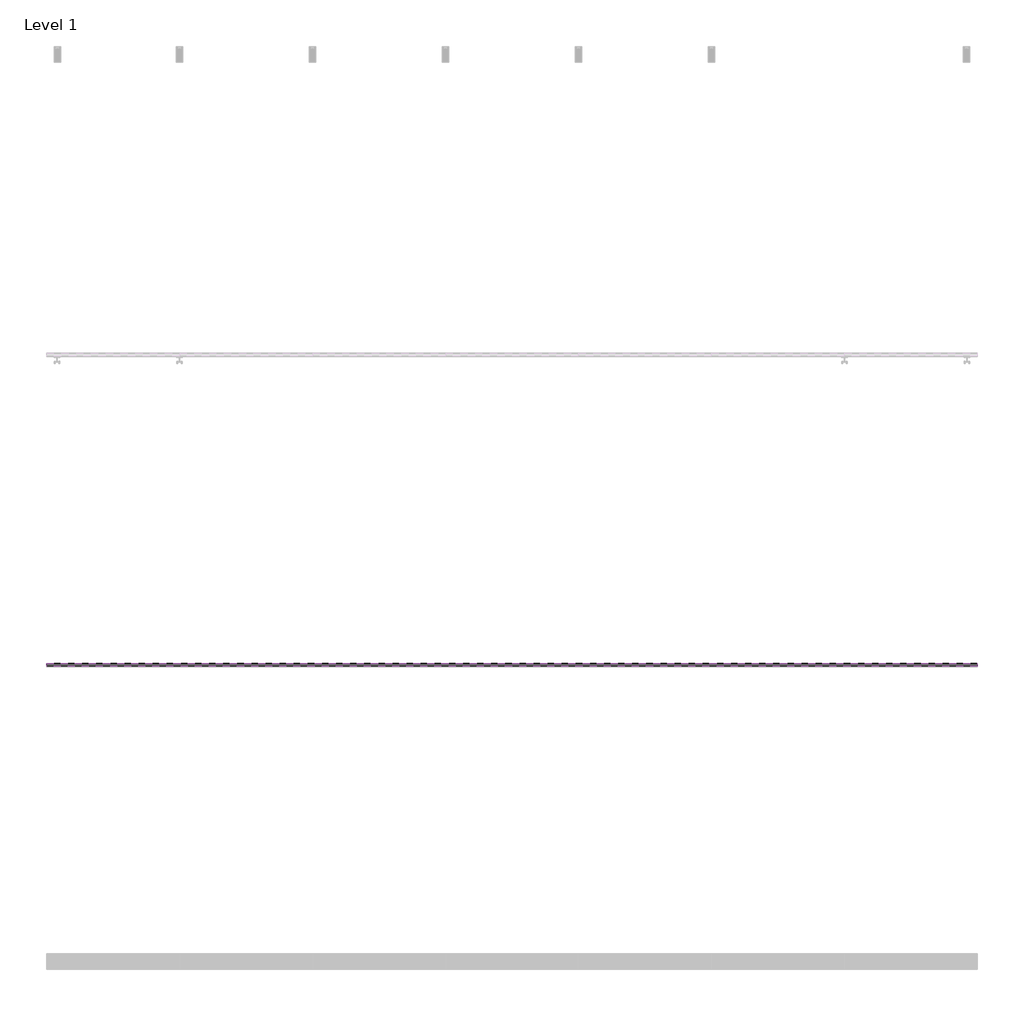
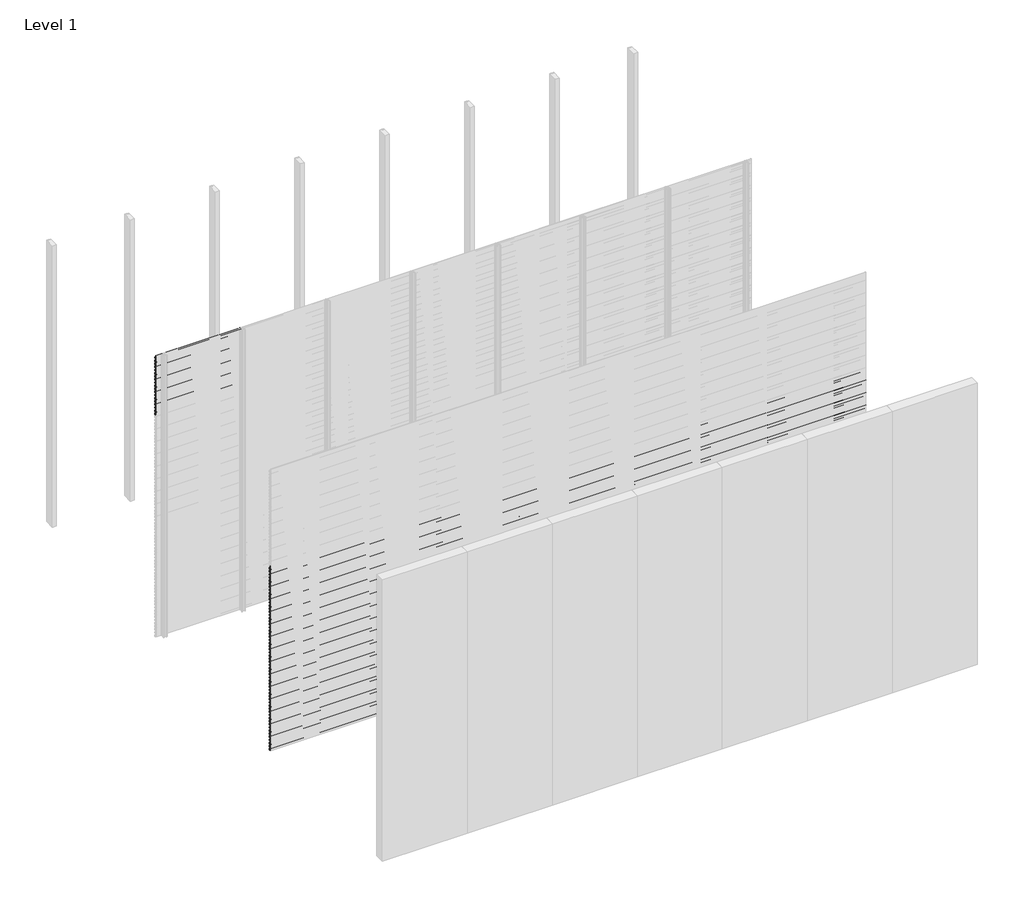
# One storey, part 23 of 96: 78 proxies.
"""IFC4 building model written with IfcOpenShell, lengths in millimetres."""

import ifcopenshell
import ifcopenshell.guid

model = None  # the IFC model being written
_history = None  # IfcOwnerHistory: only IFC2X3 demands one
_inside = {}  # id of a spatial element -> (the spatial element, [elements in it])
_under = {}  # id of a project, library or spatial element -> (it, [spatial elements below it])
_declared = {}  # id of a project -> (the project, [libraries it declares])
_typed = {}  # id of a type object -> (the type object, [elements of that type])
_made_of = {}  # id of a material, layer set ... -> (it, [elements and type objects made of it])


def new_model(schema):
    """Start an empty IFC model of exactly this schema.

    Asked for "IFC4X3", IfcOpenShell would pick the latest addendum, in which some entities
    have other attributes; the version numbers below select the first issue.
    IFC2X3 requires an IfcOwnerHistory on every rooted entity: one is made here for all.
    """
    global model, _history
    if schema == "IFC4X3":
        model = ifcopenshell.file(schema_version=(4, 3, 0, 0))
    else:
        model = ifcopenshell.file(schema=schema)
    _inside.clear()
    _under.clear()
    _declared.clear()
    _typed.clear()
    _made_of.clear()
    _history = None
    if model.schema == "IFC2X3":
        org = make("IfcOrganization", Name="unknown")
        user = make(
            "IfcPersonAndOrganization",
            ThePerson=make("IfcPerson", FamilyName="unknown"),
            TheOrganization=org,
        )
        app = make(
            "IfcApplication",
            ApplicationDeveloper=org,
            Version="unknown",
            ApplicationFullName="unknown",
            ApplicationIdentifier="unknown",
        )
        _history = make(
            "IfcOwnerHistory",
            OwningUser=user,
            OwningApplication=app,
            ChangeAction="ADDED",
            CreationDate=0,
        )
    return model


def make(cls, **values):
    """One entity of the class cls with the attributes given. An attribute that is None is left unset."""
    return model.create_entity(
        cls, **{name: value for name, value in values.items() if value is not None}
    )


def rooted(cls, **values):
    """An entity with a GlobalId (a new one), such as an element, a storey or a relation."""
    return make(cls, GlobalId=ifcopenshell.guid.new(), OwnerHistory=_history, **values)


def si_unit(unit_type, name, prefix=None):
    """IfcSIUnit, for example si_unit("LENGTHUNIT", "METRE", prefix="MILLI")."""
    return make("IfcSIUnit", UnitType=unit_type, Prefix=prefix, Name=name)


def assignment(units):
    """IfcUnitAssignment: the units of a project."""
    return None if units is None else make("IfcUnitAssignment", Units=units)


def point(xyz):
    """IfcCartesianPoint."""
    return None if xyz is None else make("IfcCartesianPoint", Coordinates=xyz)


def direction(xyz):
    """IfcDirection."""
    return None if xyz is None else make("IfcDirection", DirectionRatios=xyz)


def frame(location, z_axis=None, x_axis=None):
    """IfcAxis2Placement3D, a coordinate frame: its origin and axes. An axis left out is left unset."""
    return make(
        "IfcAxis2Placement3D",
        Location=point(location),
        Axis=direction(z_axis),
        RefDirection=direction(x_axis),
    )


def origin():
    """The frame at (0, 0, 0) with its axes left unset."""
    return frame((0.0, 0.0, 0.0))


def place(relative_to, where):
    """IfcLocalPlacement: puts the frame where relative to a parent placement (None: the world)."""
    return make(
        "IfcLocalPlacement", PlacementRelTo=relative_to, RelativePlacement=where
    )


def context(
    kind, dimensions, precision=None, world=None, true_north=None, identifier=None
):
    """IfcGeometricRepresentationContext, for example the 3D "Model" context."""
    return make(
        "IfcGeometricRepresentationContext",
        ContextIdentifier=identifier,
        ContextType=kind,
        CoordinateSpaceDimension=dimensions,
        Precision=precision,
        WorldCoordinateSystem=world,
        TrueNorth=true_north,
    )


def project(units=None, contexts=None):
    """IfcProject with its units and contexts."""
    return rooted(
        "IfcProject",
        Name="project",
        RepresentationContexts=contexts,
        UnitsInContext=assignment(units),
    )


def spatial(cls, under=None, at=None, **own):
    """A site, building, storey or space (cls), placed at a placement, below another one or the project."""
    s = rooted(cls, ObjectPlacement=at, **own)
    if under is not None:
        _under.setdefault(under.id(), (under, []))[1].append(s)
    return s


def polyline(points):
    """IfcPolyline through the points."""
    return make("IfcPolyline", Points=[point(p) for p in points])


def outline(outer, holes=None, kind="AREA"):
    """IfcArbitraryClosedProfileDef: a profile drawn as a closed curve; with holes, ...WithVoids."""
    if holes is None:
        return make("IfcArbitraryClosedProfileDef", ProfileType=kind, OuterCurve=outer)
    return make(
        "IfcArbitraryProfileDefWithVoids",
        ProfileType=kind,
        OuterCurve=outer,
        InnerCurves=holes,
    )


def extrude(swept, where, along, depth):
    """IfcExtrudedAreaSolid: the profile swept, set in the frame where, extruded along a direction by depth."""
    return make(
        "IfcExtrudedAreaSolid",
        SweptArea=swept,
        Position=where,
        ExtrudedDirection=direction(along),
        Depth=depth,
    )


def shape(context_of_items, identifier, shape_type, items):
    """IfcShapeRepresentation: the items that make up one representation, for example the "Body"."""
    return make(
        "IfcShapeRepresentation",
        ContextOfItems=context_of_items,
        RepresentationIdentifier=identifier,
        RepresentationType=shape_type,
        Items=items,
    )


def made_of(thing, what):
    """Note that an element or type object is made of a material, layer set ...; save() writes the relation."""
    if what is not None:
        _made_of.setdefault(what.id(), (what, []))[1].append(thing)
    return thing


def element(
    cls,
    number,
    at=None,
    inside=None,
    cuts=None,
    type_object=None,
    material=None,
    context=None,
    identifier="Body",
    shape_type=None,
    held_by="IfcProductDefinitionShape",
    body=None,
    shapes=None,
    **own,
):
    """One element of the class cls, such as IfcWall. Its Tag is "e" and its number.

    at: its placement. inside: the storey or other place that contains it. cuts: it is an
    opening in that element (IfcRelVoidsElement). A single representation is given by context,
    identifier, shape_type and body (its items); several are given by shapes. held_by: the class
    of the entity that holds the representations. save() writes the other relations.
    """
    e = rooted(cls, Tag="e%d" % number, ObjectPlacement=at, **own)
    if body is not None:
        shapes = [shape(context, identifier, shape_type, body)]
    if shapes is not None:
        e.Representation = make(held_by, Representations=shapes)
    if inside is not None:
        _inside.setdefault(inside.id(), (inside, []))[1].append(e)
    if cuts is not None:
        rooted(
            "IfcRelVoidsElement", RelatingBuildingElement=cuts, RelatedOpeningElement=e
        )
    if type_object is not None:
        _typed.setdefault(type_object.id(), (type_object, []))[1].append(e)
    return made_of(e, material)


def aggregate(whole, parts):
    """IfcRelAggregates: a whole, such as a stair, and the parts it consists of."""
    return rooted("IfcRelAggregates", RelatingObject=whole, RelatedObjects=parts)


def save(model, path):
    """Write the relations noted so far, then the file.

    IfcRelAggregates (storeys below a building ...), IfcRelContainedInSpatialStructure (elements
    in a storey), IfcRelDefinesByType, IfcRelAssociatesMaterial and IfcRelDeclares: one each for
    every whole, place, type object, material and project.
    """
    for whole, parts in _under.values():
        aggregate(whole, parts)
    for where, things in _inside.values():
        rooted(
            "IfcRelContainedInSpatialStructure",
            RelatedElements=things,
            RelatingStructure=where,
        )
    for kind, things in _typed.values():
        rooted("IfcRelDefinesByType", RelatedObjects=things, RelatingType=kind)
    for what, things in _made_of.values():
        rooted("IfcRelAssociatesMaterial", RelatedObjects=things, RelatingMaterial=what)
    for by, libraries in _declared.values():
        rooted("IfcRelDeclares", RelatingContext=by, RelatedDefinitions=libraries)
    model.write(path)


model = new_model("IFC4")

# Units and contexts
model_context = context("Model", 3, world=origin())
ifc_project = project(units=[si_unit("LENGTHUNIT", "METRE", prefix="MILLI")], contexts=[model_context])

# Site, building, storey
site = spatial("IfcSite", under=ifc_project)
building = spatial("IfcBuilding", under=site)
storey = spatial("IfcBuildingStorey", under=building, Name="Level 1", Elevation=0.0)

# Proxies
placement = place(None, origin())
element("IfcBuildingElementProxy", 1, Name="Wall Sweeps", at=placement, inside=storey, context=model_context, shape_type="SweptSolid", body=[
    extrude(outline(polyline([(-41977.6, 2971.7655033), (-41977.6, 2957.4779188), (-41982.4114965, 2954.7), (-41982.4114965, 2955.9701706), (-41978.85, 2958.0264016), (-41978.85, 2971.0437382), (-41998.0, 2982.1000799), (-41998.0, 2997.0), (-41996.75, 2997.0), (-41996.75, 2982.8217609), (-41977.6, 2971.7655033)])), frame((0.0, 0.0, 0.0), z_axis=(1.0, 0.0, 0.0), x_axis=(0.0, 1.0, 0.0)), (0.0, 0.0, 1.0), 857.1428571),
])
element("IfcBuildingElementProxy", 2, Name="Wall Sweeps", at=placement, inside=storey, context=model_context, shape_type="SweptSolid", body=[
    extrude(outline(polyline([(-41977.6, 2938.4655033), (-41977.6, 2924.1779188), (-41982.4114965, 2921.4), (-41982.4114965, 2922.6701706), (-41978.85, 2924.7264016), (-41978.85, 2937.7437382), (-41998.0, 2948.8000799), (-41998.0, 2963.7), (-41996.75, 2963.7), (-41996.75, 2949.5217609), (-41977.6, 2938.4655033)])), frame((0.0, 0.0, 0.0), z_axis=(1.0, 0.0, 0.0), x_axis=(0.0, 1.0, 0.0)), (0.0, 0.0, 1.0), 857.1428571),
])
element("IfcBuildingElementProxy", 3, Name="Wall Sweeps", at=placement, inside=storey, context=model_context, shape_type="SweptSolid", body=[
    extrude(outline(polyline([(-41977.6, 2905.1655033), (-41977.6, 2890.8779188), (-41982.4114965, 2888.1), (-41982.4114965, 2889.3701706), (-41978.85, 2891.4264016), (-41978.85, 2904.4437382), (-41998.0, 2915.5000799), (-41998.0, 2930.4), (-41996.75, 2930.4), (-41996.75, 2916.2217609), (-41977.6, 2905.1655033)])), frame((0.0, 0.0, 0.0), z_axis=(1.0, 0.0, 0.0), x_axis=(0.0, 1.0, 0.0)), (0.0, 0.0, 1.0), 857.1428571),
])
element("IfcBuildingElementProxy", 4, Name="Wall Sweeps", at=placement, inside=storey, context=model_context, shape_type="SweptSolid", body=[
    extrude(outline(polyline([(-41977.6, 2871.8655033), (-41977.6, 2857.5779188), (-41982.4114965, 2854.8), (-41982.4114965, 2856.0701706), (-41978.85, 2858.1264016), (-41978.85, 2871.1437382), (-41998.0, 2882.2000799), (-41998.0, 2897.1), (-41996.75, 2897.1), (-41996.75, 2882.9217609), (-41977.6, 2871.8655033)])), frame((0.0, 0.0, 0.0), z_axis=(1.0, 0.0, 0.0), x_axis=(0.0, 1.0, 0.0)), (0.0, 0.0, 1.0), 857.1428571),
])
element("IfcBuildingElementProxy", 5, Name="Wall Sweeps", at=placement, inside=storey, context=model_context, shape_type="SweptSolid", body=[
    extrude(outline(polyline([(-41977.6, 2838.5655033), (-41977.6, 2824.2779188), (-41982.4114965, 2821.5), (-41982.4114965, 2822.7701706), (-41978.85, 2824.8264016), (-41978.85, 2837.8437382), (-41998.0, 2848.9000799), (-41998.0, 2863.8), (-41996.75, 2863.8), (-41996.75, 2849.6217609), (-41977.6, 2838.5655033)])), frame((0.0, 0.0, 0.0), z_axis=(1.0, 0.0, 0.0), x_axis=(0.0, 1.0, 0.0)), (0.0, 0.0, 1.0), 857.1428571),
])
element("IfcBuildingElementProxy", 6, Name="Wall Sweeps", at=placement, inside=storey, context=model_context, shape_type="SweptSolid", body=[
    extrude(outline(polyline([(-41977.6, 2805.2655033), (-41977.6, 2790.9779188), (-41982.4114965, 2788.2), (-41982.4114965, 2789.4701706), (-41978.85, 2791.5264016), (-41978.85, 2804.5437382), (-41998.0, 2815.6000799), (-41998.0, 2830.5), (-41996.75, 2830.5), (-41996.75, 2816.3217609), (-41977.6, 2805.2655033)])), frame((0.0, 0.0, 0.0), z_axis=(1.0, 0.0, 0.0), x_axis=(0.0, 1.0, 0.0)), (0.0, 0.0, 1.0), 857.1428571),
])
element("IfcBuildingElementProxy", 7, Name="Wall Sweeps", at=placement, inside=storey, context=model_context, shape_type="SweptSolid", body=[
    extrude(outline(polyline([(-41977.6, 2771.9655033), (-41977.6, 2757.6779188), (-41982.4114965, 2754.9), (-41982.4114965, 2756.1701706), (-41978.85, 2758.2264016), (-41978.85, 2771.2437382), (-41998.0, 2782.3000799), (-41998.0, 2797.2), (-41996.75, 2797.2), (-41996.75, 2783.0217609), (-41977.6, 2771.9655033)])), frame((0.0, 0.0, 0.0), z_axis=(1.0, 0.0, 0.0), x_axis=(0.0, 1.0, 0.0)), (0.0, 0.0, 1.0), 857.1428571),
])
element("IfcBuildingElementProxy", 8, Name="Wall Sweeps", at=placement, inside=storey, context=model_context, shape_type="SweptSolid", body=[
    extrude(outline(polyline([(-41977.6, 2738.6655033), (-41977.6, 2724.3779188), (-41982.4114965, 2721.6), (-41982.4114965, 2722.8701706), (-41978.85, 2724.9264016), (-41978.85, 2737.9437382), (-41998.0, 2749.0000799), (-41998.0, 2763.9), (-41996.75, 2763.9), (-41996.75, 2749.7217609), (-41977.6, 2738.6655033)])), frame((0.0, 0.0, 0.0), z_axis=(1.0, 0.0, 0.0), x_axis=(0.0, 1.0, 0.0)), (0.0, 0.0, 1.0), 857.1428571),
])
element("IfcBuildingElementProxy", 9, Name="Wall Sweeps", at=placement, inside=storey, context=model_context, shape_type="SweptSolid", body=[
    extrude(outline(polyline([(-41977.6, 2705.3655033), (-41977.6, 2691.0779188), (-41982.4114965, 2688.3), (-41982.4114965, 2689.5701706), (-41978.85, 2691.6264016), (-41978.85, 2704.6437382), (-41998.0, 2715.7000799), (-41998.0, 2730.6), (-41996.75, 2730.6), (-41996.75, 2716.4217609), (-41977.6, 2705.3655033)])), frame((0.0, 0.0, 0.0), z_axis=(1.0, 0.0, 0.0), x_axis=(0.0, 1.0, 0.0)), (0.0, 0.0, 1.0), 857.1428571),
])
element("IfcBuildingElementProxy", 10, Name="Wall Sweeps", at=placement, inside=storey, context=model_context, shape_type="SweptSolid", body=[
    extrude(outline(polyline([(-41977.6, 2672.0655033), (-41977.6, 2657.7779188), (-41982.4114965, 2655.0), (-41982.4114965, 2656.2701706), (-41978.85, 2658.3264016), (-41978.85, 2671.3437382), (-41998.0, 2682.4000799), (-41998.0, 2697.3), (-41996.75, 2697.3), (-41996.75, 2683.1217609), (-41977.6, 2672.0655033)])), frame((0.0, 0.0, 0.0), z_axis=(1.0, 0.0, 0.0), x_axis=(0.0, 1.0, 0.0)), (0.0, 0.0, 1.0), 857.1428571),
])
element("IfcBuildingElementProxy", 11, Name="Wall Sweeps", at=placement, inside=storey, context=model_context, shape_type="SweptSolid", body=[
    extrude(outline(polyline([(-41977.6, 2638.7655033), (-41977.6, 2624.4779188), (-41982.4114965, 2621.7), (-41982.4114965, 2622.9701706), (-41978.85, 2625.0264016), (-41978.85, 2638.0437382), (-41998.0, 2649.1000799), (-41998.0, 2664.0), (-41996.75, 2664.0), (-41996.75, 2649.8217609), (-41977.6, 2638.7655033)])), frame((0.0, 0.0, 0.0), z_axis=(1.0, 0.0, 0.0), x_axis=(0.0, 1.0, 0.0)), (0.0, 0.0, 1.0), 857.1428571),
])
element("IfcBuildingElementProxy", 12, Name="Wall Sweeps", at=placement, inside=storey, context=model_context, shape_type="SweptSolid", body=[
    extrude(outline(polyline([(-41977.6, 2605.4655033), (-41977.6, 2591.1779188), (-41982.4114965, 2588.4), (-41982.4114965, 2589.6701706), (-41978.85, 2591.7264016), (-41978.85, 2604.7437382), (-41998.0, 2615.8000799), (-41998.0, 2630.7), (-41996.75, 2630.7), (-41996.75, 2616.5217609), (-41977.6, 2605.4655033)])), frame((0.0, 0.0, 0.0), z_axis=(1.0, 0.0, 0.0), x_axis=(0.0, 1.0, 0.0)), (0.0, 0.0, 1.0), 857.1428571),
])
element("IfcBuildingElementProxy", 13, Name="Wall Sweeps", at=placement, inside=storey, context=model_context, shape_type="SweptSolid", body=[
    extrude(outline(polyline([(-41977.6, 2572.1655033), (-41977.6, 2557.8779188), (-41982.4114965, 2555.1), (-41982.4114965, 2556.3701706), (-41978.85, 2558.4264016), (-41978.85, 2571.4437382), (-41998.0, 2582.5000799), (-41998.0, 2597.4), (-41996.75, 2597.4), (-41996.75, 2583.2217609), (-41977.6, 2572.1655033)])), frame((0.0, 0.0, 0.0), z_axis=(1.0, 0.0, 0.0), x_axis=(0.0, 1.0, 0.0)), (0.0, 0.0, 1.0), 857.1428571),
])
element("IfcBuildingElementProxy", 14, Name="Wall Sweeps", at=placement, inside=storey, context=model_context, shape_type="SweptSolid", body=[
    extrude(outline(polyline([(-41977.6, 2538.8655033), (-41977.6, 2524.5779188), (-41982.4114965, 2521.8), (-41982.4114965, 2523.0701706), (-41978.85, 2525.1264016), (-41978.85, 2538.1437382), (-41998.0, 2549.2000799), (-41998.0, 2564.1), (-41996.75, 2564.1), (-41996.75, 2549.9217609), (-41977.6, 2538.8655033)])), frame((0.0, 0.0, 0.0), z_axis=(1.0, 0.0, 0.0), x_axis=(0.0, 1.0, 0.0)), (0.0, 0.0, 1.0), 857.1428571),
])
element("IfcBuildingElementProxy", 15, Name="Wall Sweeps", at=placement, inside=storey, context=model_context, shape_type="SweptSolid", body=[
    extrude(outline(polyline([(-41977.6, 2505.5655033), (-41977.6, 2491.2779188), (-41982.4114965, 2488.5), (-41982.4114965, 2489.7701706), (-41978.85, 2491.8264016), (-41978.85, 2504.8437382), (-41998.0, 2515.9000799), (-41998.0, 2530.8), (-41996.75, 2530.8), (-41996.75, 2516.6217609), (-41977.6, 2505.5655033)])), frame((0.0, 0.0, 0.0), z_axis=(1.0, 0.0, 0.0), x_axis=(0.0, 1.0, 0.0)), (0.0, 0.0, 1.0), 857.1428571),
])
element("IfcBuildingElementProxy", 16, Name="Wall Sweeps", at=placement, inside=storey, context=model_context, shape_type="SweptSolid", body=[
    extrude(outline(polyline([(-41977.6, 2472.2655033), (-41977.6, 2457.9779188), (-41982.4114965, 2455.2), (-41982.4114965, 2456.4701706), (-41978.85, 2458.5264016), (-41978.85, 2471.5437382), (-41998.0, 2482.6000799), (-41998.0, 2497.5), (-41996.75, 2497.5), (-41996.75, 2483.3217609), (-41977.6, 2472.2655033)])), frame((0.0, 0.0, 0.0), z_axis=(1.0, 0.0, 0.0), x_axis=(0.0, 1.0, 0.0)), (0.0, 0.0, 1.0), 857.1428571),
])
element("IfcBuildingElementProxy", 17, Name="Wall Sweeps", at=placement, inside=storey, context=model_context, shape_type="SweptSolid", body=[
    extrude(outline(polyline([(-41977.6, 2438.9655033), (-41977.6, 2424.6779188), (-41982.4114965, 2421.9), (-41982.4114965, 2423.1701706), (-41978.85, 2425.2264016), (-41978.85, 2438.2437382), (-41998.0, 2449.3000799), (-41998.0, 2464.2), (-41996.75, 2464.2), (-41996.75, 2450.0217609), (-41977.6, 2438.9655033)])), frame((0.0, 0.0, 0.0), z_axis=(1.0, 0.0, 0.0), x_axis=(0.0, 1.0, 0.0)), (0.0, 0.0, 1.0), 857.1428571),
])
element("IfcBuildingElementProxy", 18, Name="Wall Sweeps", at=placement, inside=storey, context=model_context, shape_type="SweptSolid", body=[
    extrude(outline(polyline([(-41977.6, 2405.6655033), (-41977.6, 2391.3779188), (-41982.4114965, 2388.6), (-41982.4114965, 2389.8701706), (-41978.85, 2391.9264016), (-41978.85, 2404.9437382), (-41998.0, 2416.0000799), (-41998.0, 2430.9), (-41996.75, 2430.9), (-41996.75, 2416.7217609), (-41977.6, 2405.6655033)])), frame((0.0, 0.0, 0.0), z_axis=(1.0, 0.0, 0.0), x_axis=(0.0, 1.0, 0.0)), (0.0, 0.0, 1.0), 857.1428571),
])
element("IfcBuildingElementProxy", 19, Name="Wall Sweeps", at=placement, inside=storey, context=model_context, shape_type="SweptSolid", body=[
    extrude(outline(polyline([(-41977.6, 2372.3655033), (-41977.6, 2358.0779188), (-41982.4114965, 2355.3), (-41982.4114965, 2356.5701706), (-41978.85, 2358.6264016), (-41978.85, 2371.6437382), (-41998.0, 2382.7000799), (-41998.0, 2397.6), (-41996.75, 2397.6), (-41996.75, 2383.4217609), (-41977.6, 2372.3655033)])), frame((0.0, 0.0, 0.0), z_axis=(1.0, 0.0, 0.0), x_axis=(0.0, 1.0, 0.0)), (0.0, 0.0, 1.0), 857.1428571),
])
element("IfcBuildingElementProxy", 20, Name="Wall Sweeps", at=placement, inside=storey, context=model_context, shape_type="SweptSolid", body=[
    extrude(outline(polyline([(-43977.6, 1939.4655033), (-43977.6, 1925.1779188), (-43982.4114965, 1922.4), (-43982.4114965, 1923.6701706), (-43978.85, 1925.7264016), (-43978.85, 1938.7437382), (-43998.0, 1949.8000799), (-43998.0, 1964.7), (-43996.75, 1964.7), (-43996.75, 1950.5217609), (-43977.6, 1939.4655033)])), frame((0.0, 0.0, 0.0), z_axis=(1.0, 0.0, 0.0), x_axis=(0.0, 1.0, 0.0)), (0.0, 0.0, 1.0), 6000.0),
])
element("IfcBuildingElementProxy", 21, Name="Wall Sweeps", at=placement, inside=storey, context=model_context, shape_type="SweptSolid", body=[
    extrude(outline(polyline([(-43977.6, 1906.1655033), (-43977.6, 1891.8779188), (-43982.4114965, 1889.1), (-43982.4114965, 1890.3701706), (-43978.85, 1892.4264016), (-43978.85, 1905.4437382), (-43998.0, 1916.5000799), (-43998.0, 1931.4), (-43996.75, 1931.4), (-43996.75, 1917.2217609), (-43977.6, 1906.1655033)])), frame((0.0, 0.0, 0.0), z_axis=(1.0, 0.0, 0.0), x_axis=(0.0, 1.0, 0.0)), (0.0, 0.0, 1.0), 6000.0),
])
element("IfcBuildingElementProxy", 22, Name="Wall Sweeps", at=placement, inside=storey, context=model_context, shape_type="SweptSolid", body=[
    extrude(outline(polyline([(-43977.6, 1872.8655033), (-43977.6, 1858.5779188), (-43982.4114965, 1855.8), (-43982.4114965, 1857.0701706), (-43978.85, 1859.1264016), (-43978.85, 1872.1437382), (-43998.0, 1883.2000799), (-43998.0, 1898.1), (-43996.75, 1898.1), (-43996.75, 1883.9217609), (-43977.6, 1872.8655033)])), frame((0.0, 0.0, 0.0), z_axis=(1.0, 0.0, 0.0), x_axis=(0.0, 1.0, 0.0)), (0.0, 0.0, 1.0), 6000.0),
])
element("IfcBuildingElementProxy", 23, Name="Wall Sweeps", at=placement, inside=storey, context=model_context, shape_type="SweptSolid", body=[
    extrude(outline(polyline([(-43977.6, 1839.5655033), (-43977.6, 1825.2779188), (-43982.4114965, 1822.5), (-43982.4114965, 1823.7701706), (-43978.85, 1825.8264016), (-43978.85, 1838.8437382), (-43998.0, 1849.9000799), (-43998.0, 1864.8), (-43996.75, 1864.8), (-43996.75, 1850.6217609), (-43977.6, 1839.5655033)])), frame((0.0, 0.0, 0.0), z_axis=(1.0, 0.0, 0.0), x_axis=(0.0, 1.0, 0.0)), (0.0, 0.0, 1.0), 6000.0),
])
element("IfcBuildingElementProxy", 24, Name="Wall Sweeps", at=placement, inside=storey, context=model_context, shape_type="SweptSolid", body=[
    extrude(outline(polyline([(-43977.6, 1806.2655033), (-43977.6, 1791.9779188), (-43982.4114965, 1789.2), (-43982.4114965, 1790.4701706), (-43978.85, 1792.5264016), (-43978.85, 1805.5437382), (-43998.0, 1816.6000799), (-43998.0, 1831.5), (-43996.75, 1831.5), (-43996.75, 1817.3217609), (-43977.6, 1806.2655033)])), frame((0.0, 0.0, 0.0), z_axis=(1.0, 0.0, 0.0), x_axis=(0.0, 1.0, 0.0)), (0.0, 0.0, 1.0), 6000.0),
])
element("IfcBuildingElementProxy", 25, Name="Wall Sweeps", at=placement, inside=storey, context=model_context, shape_type="SweptSolid", body=[
    extrude(outline(polyline([(-43977.6, 1772.9655033), (-43977.6, 1758.6779188), (-43982.4114965, 1755.9), (-43982.4114965, 1757.1701706), (-43978.85, 1759.2264016), (-43978.85, 1772.2437382), (-43998.0, 1783.3000799), (-43998.0, 1798.2), (-43996.75, 1798.2), (-43996.75, 1784.0217609), (-43977.6, 1772.9655033)])), frame((0.0, 0.0, 0.0), z_axis=(1.0, 0.0, 0.0), x_axis=(0.0, 1.0, 0.0)), (0.0, 0.0, 1.0), 6000.0),
])
element("IfcBuildingElementProxy", 26, Name="Wall Sweeps", at=placement, inside=storey, context=model_context, shape_type="SweptSolid", body=[
    extrude(outline(polyline([(-43977.6, 1739.6655033), (-43977.6, 1725.3779188), (-43982.4114965, 1722.6), (-43982.4114965, 1723.8701706), (-43978.85, 1725.9264016), (-43978.85, 1738.9437382), (-43998.0, 1750.0000799), (-43998.0, 1764.9), (-43996.75, 1764.9), (-43996.75, 1750.7217609), (-43977.6, 1739.6655033)])), frame((0.0, 0.0, 0.0), z_axis=(1.0, 0.0, 0.0), x_axis=(0.0, 1.0, 0.0)), (0.0, 0.0, 1.0), 6000.0),
])
element("IfcBuildingElementProxy", 27, Name="Wall Sweeps", at=placement, inside=storey, context=model_context, shape_type="SweptSolid", body=[
    extrude(outline(polyline([(-43977.6, 1706.3655033), (-43977.6, 1692.0779188), (-43982.4114965, 1689.3), (-43982.4114965, 1690.5701706), (-43978.85, 1692.6264016), (-43978.85, 1705.6437382), (-43998.0, 1716.7000799), (-43998.0, 1731.6), (-43996.75, 1731.6), (-43996.75, 1717.4217609), (-43977.6, 1706.3655033)])), frame((0.0, 0.0, 0.0), z_axis=(1.0, 0.0, 0.0), x_axis=(0.0, 1.0, 0.0)), (0.0, 0.0, 1.0), 6000.0),
])
element("IfcBuildingElementProxy", 28, Name="Wall Sweeps", at=placement, inside=storey, context=model_context, shape_type="SweptSolid", body=[
    extrude(outline(polyline([(-43977.6, 1673.0655033), (-43977.6, 1658.7779188), (-43982.4114965, 1656.0), (-43982.4114965, 1657.2701706), (-43978.85, 1659.3264016), (-43978.85, 1672.3437382), (-43998.0, 1683.4000799), (-43998.0, 1698.3), (-43996.75, 1698.3), (-43996.75, 1684.1217609), (-43977.6, 1673.0655033)])), frame((0.0, 0.0, 0.0), z_axis=(1.0, 0.0, 0.0), x_axis=(0.0, 1.0, 0.0)), (0.0, 0.0, 1.0), 6000.0),
])
element("IfcBuildingElementProxy", 29, Name="Wall Sweeps", at=placement, inside=storey, context=model_context, shape_type="SweptSolid", body=[
    extrude(outline(polyline([(-43977.6, 1639.7655033), (-43977.6, 1625.4779188), (-43982.4114965, 1622.7), (-43982.4114965, 1623.9701706), (-43978.85, 1626.0264016), (-43978.85, 1639.0437382), (-43998.0, 1650.1000799), (-43998.0, 1665.0), (-43996.75, 1665.0), (-43996.75, 1650.8217609), (-43977.6, 1639.7655033)])), frame((0.0, 0.0, 0.0), z_axis=(1.0, 0.0, 0.0), x_axis=(0.0, 1.0, 0.0)), (0.0, 0.0, 1.0), 6000.0),
])
element("IfcBuildingElementProxy", 30, Name="Wall Sweeps", at=placement, inside=storey, context=model_context, shape_type="SweptSolid", body=[
    extrude(outline(polyline([(-43977.6, 1606.4655033), (-43977.6, 1592.1779188), (-43982.4114965, 1589.4), (-43982.4114965, 1590.6701706), (-43978.85, 1592.7264016), (-43978.85, 1605.7437382), (-43998.0, 1616.8000799), (-43998.0, 1631.7), (-43996.75, 1631.7), (-43996.75, 1617.5217609), (-43977.6, 1606.4655033)])), frame((0.0, 0.0, 0.0), z_axis=(1.0, 0.0, 0.0), x_axis=(0.0, 1.0, 0.0)), (0.0, 0.0, 1.0), 6000.0),
])
element("IfcBuildingElementProxy", 31, Name="Wall Sweeps", at=placement, inside=storey, context=model_context, shape_type="SweptSolid", body=[
    extrude(outline(polyline([(-43977.6, 1573.1655033), (-43977.6, 1558.8779188), (-43982.4114965, 1556.1), (-43982.4114965, 1557.3701706), (-43978.85, 1559.4264016), (-43978.85, 1572.4437382), (-43998.0, 1583.5000799), (-43998.0, 1598.4), (-43996.75, 1598.4), (-43996.75, 1584.2217609), (-43977.6, 1573.1655033)])), frame((0.0, 0.0, 0.0), z_axis=(1.0, 0.0, 0.0), x_axis=(0.0, 1.0, 0.0)), (0.0, 0.0, 1.0), 6000.0),
])
element("IfcBuildingElementProxy", 32, Name="Wall Sweeps", at=placement, inside=storey, context=model_context, shape_type="SweptSolid", body=[
    extrude(outline(polyline([(-43977.6, 1539.8655033), (-43977.6, 1525.5779188), (-43982.4114965, 1522.8), (-43982.4114965, 1524.0701706), (-43978.85, 1526.1264016), (-43978.85, 1539.1437382), (-43998.0, 1550.2000799), (-43998.0, 1565.1), (-43996.75, 1565.1), (-43996.75, 1550.9217609), (-43977.6, 1539.8655033)])), frame((0.0, 0.0, 0.0), z_axis=(1.0, 0.0, 0.0), x_axis=(0.0, 1.0, 0.0)), (0.0, 0.0, 1.0), 6000.0),
])
element("IfcBuildingElementProxy", 33, Name="Wall Sweeps", at=placement, inside=storey, context=model_context, shape_type="SweptSolid", body=[
    extrude(outline(polyline([(-43977.6, 1506.5655033), (-43977.6, 1492.2779188), (-43982.4114965, 1489.5), (-43982.4114965, 1490.7701706), (-43978.85, 1492.8264016), (-43978.85, 1505.8437382), (-43998.0, 1516.9000799), (-43998.0, 1531.8), (-43996.75, 1531.8), (-43996.75, 1517.6217609), (-43977.6, 1506.5655033)])), frame((0.0, 0.0, 0.0), z_axis=(1.0, 0.0, 0.0), x_axis=(0.0, 1.0, 0.0)), (0.0, 0.0, 1.0), 6000.0),
])
element("IfcBuildingElementProxy", 34, Name="Wall Sweeps", at=placement, inside=storey, context=model_context, shape_type="SweptSolid", body=[
    extrude(outline(polyline([(-43977.6, 1473.2655033), (-43977.6, 1458.9779188), (-43982.4114965, 1456.2), (-43982.4114965, 1457.4701706), (-43978.85, 1459.5264016), (-43978.85, 1472.5437382), (-43998.0, 1483.6000799), (-43998.0, 1498.5), (-43996.75, 1498.5), (-43996.75, 1484.3217609), (-43977.6, 1473.2655033)])), frame((0.0, 0.0, 0.0), z_axis=(1.0, 0.0, 0.0), x_axis=(0.0, 1.0, 0.0)), (0.0, 0.0, 1.0), 6000.0),
])
element("IfcBuildingElementProxy", 35, Name="Wall Sweeps", at=placement, inside=storey, context=model_context, shape_type="SweptSolid", body=[
    extrude(outline(polyline([(-43977.6, 1439.9655033), (-43977.6, 1425.6779188), (-43982.4114965, 1422.9), (-43982.4114965, 1424.1701706), (-43978.85, 1426.2264016), (-43978.85, 1439.2437382), (-43998.0, 1450.3000799), (-43998.0, 1465.2), (-43996.75, 1465.2), (-43996.75, 1451.0217609), (-43977.6, 1439.9655033)])), frame((0.0, 0.0, 0.0), z_axis=(1.0, 0.0, 0.0), x_axis=(0.0, 1.0, 0.0)), (0.0, 0.0, 1.0), 6000.0),
])
element("IfcBuildingElementProxy", 36, Name="Wall Sweeps", at=placement, inside=storey, context=model_context, shape_type="SweptSolid", body=[
    extrude(outline(polyline([(-43977.6, 1406.6655033), (-43977.6, 1392.3779188), (-43982.4114965, 1389.6), (-43982.4114965, 1390.8701706), (-43978.85, 1392.9264016), (-43978.85, 1405.9437382), (-43998.0, 1417.0000799), (-43998.0, 1431.9), (-43996.75, 1431.9), (-43996.75, 1417.7217609), (-43977.6, 1406.6655033)])), frame((0.0, 0.0, 0.0), z_axis=(1.0, 0.0, 0.0), x_axis=(0.0, 1.0, 0.0)), (0.0, 0.0, 1.0), 6000.0),
])
element("IfcBuildingElementProxy", 37, Name="Wall Sweeps", at=placement, inside=storey, context=model_context, shape_type="SweptSolid", body=[
    extrude(outline(polyline([(-43977.6, 1373.3655033), (-43977.6, 1359.0779188), (-43982.4114965, 1356.3), (-43982.4114965, 1357.5701706), (-43978.85, 1359.6264016), (-43978.85, 1372.6437382), (-43998.0, 1383.7000799), (-43998.0, 1398.6), (-43996.75, 1398.6), (-43996.75, 1384.4217609), (-43977.6, 1373.3655033)])), frame((0.0, 0.0, 0.0), z_axis=(1.0, 0.0, 0.0), x_axis=(0.0, 1.0, 0.0)), (0.0, 0.0, 1.0), 6000.0),
])
element("IfcBuildingElementProxy", 38, Name="Wall Sweeps", at=placement, inside=storey, context=model_context, shape_type="SweptSolid", body=[
    extrude(outline(polyline([(-43977.6, 1340.0655033), (-43977.6, 1325.7779188), (-43982.4114965, 1323.0), (-43982.4114965, 1324.2701706), (-43978.85, 1326.3264016), (-43978.85, 1339.3437382), (-43998.0, 1350.4000799), (-43998.0, 1365.3), (-43996.75, 1365.3), (-43996.75, 1351.1217609), (-43977.6, 1340.0655033)])), frame((0.0, 0.0, 0.0), z_axis=(1.0, 0.0, 0.0), x_axis=(0.0, 1.0, 0.0)), (0.0, 0.0, 1.0), 6000.0),
])
element("IfcBuildingElementProxy", 39, Name="Wall Sweeps", at=placement, inside=storey, context=model_context, shape_type="SweptSolid", body=[
    extrude(outline(polyline([(-43977.6, 1306.7655033), (-43977.6, 1292.4779188), (-43982.4114965, 1289.7), (-43982.4114965, 1290.9701706), (-43978.85, 1293.0264016), (-43978.85, 1306.0437382), (-43998.0, 1317.1000799), (-43998.0, 1332.0), (-43996.75, 1332.0), (-43996.75, 1317.8217609), (-43977.6, 1306.7655033)])), frame((0.0, 0.0, 0.0), z_axis=(1.0, 0.0, 0.0), x_axis=(0.0, 1.0, 0.0)), (0.0, 0.0, 1.0), 6000.0),
])
element("IfcBuildingElementProxy", 40, Name="Wall Sweeps", at=placement, inside=storey, context=model_context, shape_type="SweptSolid", body=[
    extrude(outline(polyline([(-43977.6, 1273.4655033), (-43977.6, 1259.1779188), (-43982.4114965, 1256.4), (-43982.4114965, 1257.6701706), (-43978.85, 1259.7264016), (-43978.85, 1272.7437382), (-43998.0, 1283.8000799), (-43998.0, 1298.7), (-43996.75, 1298.7), (-43996.75, 1284.5217609), (-43977.6, 1273.4655033)])), frame((0.0, 0.0, 0.0), z_axis=(1.0, 0.0, 0.0), x_axis=(0.0, 1.0, 0.0)), (0.0, 0.0, 1.0), 6000.0),
])
element("IfcBuildingElementProxy", 41, Name="Wall Sweeps", at=placement, inside=storey, context=model_context, shape_type="SweptSolid", body=[
    extrude(outline(polyline([(-43977.6, 1240.1655033), (-43977.6, 1225.8779188), (-43982.4114965, 1223.1), (-43982.4114965, 1224.3701706), (-43978.85, 1226.4264016), (-43978.85, 1239.4437382), (-43998.0, 1250.5000799), (-43998.0, 1265.4), (-43996.75, 1265.4), (-43996.75, 1251.2217609), (-43977.6, 1240.1655033)])), frame((0.0, 0.0, 0.0), z_axis=(1.0, 0.0, 0.0), x_axis=(0.0, 1.0, 0.0)), (0.0, 0.0, 1.0), 6000.0),
])
element("IfcBuildingElementProxy", 42, Name="Wall Sweeps", at=placement, inside=storey, context=model_context, shape_type="SweptSolid", body=[
    extrude(outline(polyline([(-43977.6, 1206.8655033), (-43977.6, 1192.5779188), (-43982.4114965, 1189.8), (-43982.4114965, 1191.0701706), (-43978.85, 1193.1264016), (-43978.85, 1206.1437382), (-43998.0, 1217.2000799), (-43998.0, 1232.1), (-43996.75, 1232.1), (-43996.75, 1217.9217609), (-43977.6, 1206.8655033)])), frame((0.0, 0.0, 0.0), z_axis=(1.0, 0.0, 0.0), x_axis=(0.0, 1.0, 0.0)), (0.0, 0.0, 1.0), 6000.0),
])
element("IfcBuildingElementProxy", 43, Name="Wall Sweeps", at=placement, inside=storey, context=model_context, shape_type="SweptSolid", body=[
    extrude(outline(polyline([(-43977.6, 1173.5655033), (-43977.6, 1159.2779188), (-43982.4114965, 1156.5), (-43982.4114965, 1157.7701706), (-43978.85, 1159.8264016), (-43978.85, 1172.8437382), (-43998.0, 1183.9000799), (-43998.0, 1198.8), (-43996.75, 1198.8), (-43996.75, 1184.6217609), (-43977.6, 1173.5655033)])), frame((0.0, 0.0, 0.0), z_axis=(1.0, 0.0, 0.0), x_axis=(0.0, 1.0, 0.0)), (0.0, 0.0, 1.0), 6000.0),
])
element("IfcBuildingElementProxy", 44, Name="Wall Sweeps", at=placement, inside=storey, context=model_context, shape_type="SweptSolid", body=[
    extrude(outline(polyline([(-43977.6, 1140.2655033), (-43977.6, 1125.9779188), (-43982.4114965, 1123.2), (-43982.4114965, 1124.4701706), (-43978.85, 1126.5264016), (-43978.85, 1139.5437382), (-43998.0, 1150.6000799), (-43998.0, 1165.5), (-43996.75, 1165.5), (-43996.75, 1151.3217609), (-43977.6, 1140.2655033)])), frame((0.0, 0.0, 0.0), z_axis=(1.0, 0.0, 0.0), x_axis=(0.0, 1.0, 0.0)), (0.0, 0.0, 1.0), 6000.0),
])
element("IfcBuildingElementProxy", 45, Name="Wall Sweeps", at=placement, inside=storey, context=model_context, shape_type="SweptSolid", body=[
    extrude(outline(polyline([(-43977.6, 1106.9655033), (-43977.6, 1092.6779188), (-43982.4114965, 1089.9), (-43982.4114965, 1091.1701706), (-43978.85, 1093.2264016), (-43978.85, 1106.2437382), (-43998.0, 1117.3000799), (-43998.0, 1132.2), (-43996.75, 1132.2), (-43996.75, 1118.0217609), (-43977.6, 1106.9655033)])), frame((0.0, 0.0, 0.0), z_axis=(1.0, 0.0, 0.0), x_axis=(0.0, 1.0, 0.0)), (0.0, 0.0, 1.0), 6000.0),
])
element("IfcBuildingElementProxy", 46, Name="Wall Sweeps", at=placement, inside=storey, context=model_context, shape_type="SweptSolid", body=[
    extrude(outline(polyline([(-43977.6, 1073.6655033), (-43977.6, 1059.3779188), (-43982.4114965, 1056.6), (-43982.4114965, 1057.8701706), (-43978.85, 1059.9264016), (-43978.85, 1072.9437382), (-43998.0, 1084.0000799), (-43998.0, 1098.9), (-43996.75, 1098.9), (-43996.75, 1084.7217609), (-43977.6, 1073.6655033)])), frame((0.0, 0.0, 0.0), z_axis=(1.0, 0.0, 0.0), x_axis=(0.0, 1.0, 0.0)), (0.0, 0.0, 1.0), 6000.0),
])
element("IfcBuildingElementProxy", 47, Name="Wall Sweeps", at=placement, inside=storey, context=model_context, shape_type="SweptSolid", body=[
    extrude(outline(polyline([(-43977.6, 1040.3655033), (-43977.6, 1026.0779188), (-43982.4114965, 1023.3), (-43982.4114965, 1024.5701706), (-43978.85, 1026.6264016), (-43978.85, 1039.6437382), (-43998.0, 1050.7000799), (-43998.0, 1065.6), (-43996.75, 1065.6), (-43996.75, 1051.4217609), (-43977.6, 1040.3655033)])), frame((0.0, 0.0, 0.0), z_axis=(1.0, 0.0, 0.0), x_axis=(0.0, 1.0, 0.0)), (0.0, 0.0, 1.0), 6000.0),
])
element("IfcBuildingElementProxy", 48, Name="Wall Sweeps", at=placement, inside=storey, context=model_context, shape_type="SweptSolid", body=[
    extrude(outline(polyline([(-43977.6, 1007.0655033), (-43977.6, 992.7779188), (-43982.4114965, 990.0), (-43982.4114965, 991.2701706), (-43978.85, 993.3264016), (-43978.85, 1006.3437382), (-43998.0, 1017.4000799), (-43998.0, 1032.3), (-43996.75, 1032.3), (-43996.75, 1018.1217609), (-43977.6, 1007.0655033)])), frame((0.0, 0.0, 0.0), z_axis=(1.0, 0.0, 0.0), x_axis=(0.0, 1.0, 0.0)), (0.0, 0.0, 1.0), 6000.0),
])
element("IfcBuildingElementProxy", 49, Name="Wall Sweeps", at=placement, inside=storey, context=model_context, shape_type="SweptSolid", body=[
    extrude(outline(polyline([(-43977.6, 973.7655033), (-43977.6, 959.4779188), (-43982.4114965, 956.7), (-43982.4114965, 957.9701706), (-43978.85, 960.0264016), (-43978.85, 973.0437382), (-43998.0, 984.1000799), (-43998.0, 999.0), (-43996.75, 999.0), (-43996.75, 984.8217609), (-43977.6, 973.7655033)])), frame((0.0, 0.0, 0.0), z_axis=(1.0, 0.0, 0.0), x_axis=(0.0, 1.0, 0.0)), (0.0, 0.0, 1.0), 6000.0),
])
element("IfcBuildingElementProxy", 50, Name="Wall Sweeps", at=placement, inside=storey, context=model_context, shape_type="SweptSolid", body=[
    extrude(outline(polyline([(-43977.6, 940.4655033), (-43977.6, 926.1779188), (-43982.4114965, 923.4), (-43982.4114965, 924.6701706), (-43978.85, 926.7264016), (-43978.85, 939.7437382), (-43998.0, 950.8000799), (-43998.0, 965.7), (-43996.75, 965.7), (-43996.75, 951.5217609), (-43977.6, 940.4655033)])), frame((0.0, 0.0, 0.0), z_axis=(1.0, 0.0, 0.0), x_axis=(0.0, 1.0, 0.0)), (0.0, 0.0, 1.0), 6000.0),
])
element("IfcBuildingElementProxy", 51, Name="Wall Sweeps", at=placement, inside=storey, context=model_context, shape_type="SweptSolid", body=[
    extrude(outline(polyline([(-43977.6, 907.1655033), (-43977.6, 892.8779188), (-43982.4114965, 890.1), (-43982.4114965, 891.3701706), (-43978.85, 893.4264016), (-43978.85, 906.4437382), (-43998.0, 917.5000799), (-43998.0, 932.4), (-43996.75, 932.4), (-43996.75, 918.2217609), (-43977.6, 907.1655033)])), frame((0.0, 0.0, 0.0), z_axis=(1.0, 0.0, 0.0), x_axis=(0.0, 1.0, 0.0)), (0.0, 0.0, 1.0), 6000.0),
])
element("IfcBuildingElementProxy", 52, Name="Wall Sweeps", at=placement, inside=storey, context=model_context, shape_type="SweptSolid", body=[
    extrude(outline(polyline([(-43977.6, 873.8655033), (-43977.6, 859.5779188), (-43982.4114965, 856.8), (-43982.4114965, 858.0701706), (-43978.85, 860.1264016), (-43978.85, 873.1437382), (-43998.0, 884.2000799), (-43998.0, 899.1), (-43996.75, 899.1), (-43996.75, 884.9217609), (-43977.6, 873.8655033)])), frame((0.0, 0.0, 0.0), z_axis=(1.0, 0.0, 0.0), x_axis=(0.0, 1.0, 0.0)), (0.0, 0.0, 1.0), 6000.0),
])
element("IfcBuildingElementProxy", 53, Name="Wall Sweeps", at=placement, inside=storey, context=model_context, shape_type="SweptSolid", body=[
    extrude(outline(polyline([(-43977.6, 840.5655033), (-43977.6, 826.2779188), (-43982.4114965, 823.5), (-43982.4114965, 824.7701706), (-43978.85, 826.8264016), (-43978.85, 839.8437382), (-43998.0, 850.9000799), (-43998.0, 865.8), (-43996.75, 865.8), (-43996.75, 851.6217609), (-43977.6, 840.5655033)])), frame((0.0, 0.0, 0.0), z_axis=(1.0, 0.0, 0.0), x_axis=(0.0, 1.0, 0.0)), (0.0, 0.0, 1.0), 6000.0),
])
element("IfcBuildingElementProxy", 54, Name="Wall Sweeps", at=placement, inside=storey, context=model_context, shape_type="SweptSolid", body=[
    extrude(outline(polyline([(-43977.6, 807.2655033), (-43977.6, 792.9779188), (-43982.4114965, 790.2), (-43982.4114965, 791.4701706), (-43978.85, 793.5264016), (-43978.85, 806.5437382), (-43998.0, 817.6000799), (-43998.0, 832.5), (-43996.75, 832.5), (-43996.75, 818.3217609), (-43977.6, 807.2655033)])), frame((0.0, 0.0, 0.0), z_axis=(1.0, 0.0, 0.0), x_axis=(0.0, 1.0, 0.0)), (0.0, 0.0, 1.0), 6000.0),
])
element("IfcBuildingElementProxy", 55, Name="Wall Sweeps", at=placement, inside=storey, context=model_context, shape_type="SweptSolid", body=[
    extrude(outline(polyline([(-43977.6, 773.9655033), (-43977.6, 759.6779188), (-43982.4114965, 756.9), (-43982.4114965, 758.1701706), (-43978.85, 760.2264016), (-43978.85, 773.2437382), (-43998.0, 784.3000799), (-43998.0, 799.2), (-43996.75, 799.2), (-43996.75, 785.0217609), (-43977.6, 773.9655033)])), frame((0.0, 0.0, 0.0), z_axis=(1.0, 0.0, 0.0), x_axis=(0.0, 1.0, 0.0)), (0.0, 0.0, 1.0), 6000.0),
])
element("IfcBuildingElementProxy", 56, Name="Wall Sweeps", at=placement, inside=storey, context=model_context, shape_type="SweptSolid", body=[
    extrude(outline(polyline([(-43977.6, 740.6655033), (-43977.6, 726.3779188), (-43982.4114965, 723.6), (-43982.4114965, 724.8701706), (-43978.85, 726.9264016), (-43978.85, 739.9437382), (-43998.0, 751.0000799), (-43998.0, 765.9), (-43996.75, 765.9), (-43996.75, 751.7217609), (-43977.6, 740.6655033)])), frame((0.0, 0.0, 0.0), z_axis=(1.0, 0.0, 0.0), x_axis=(0.0, 1.0, 0.0)), (0.0, 0.0, 1.0), 6000.0),
])
element("IfcBuildingElementProxy", 57, Name="Wall Sweeps", at=placement, inside=storey, context=model_context, shape_type="SweptSolid", body=[
    extrude(outline(polyline([(-43977.6, 707.3655033), (-43977.6, 693.0779188), (-43982.4114965, 690.3), (-43982.4114965, 691.5701706), (-43978.85, 693.6264016), (-43978.85, 706.6437382), (-43998.0, 717.7000799), (-43998.0, 732.6), (-43996.75, 732.6), (-43996.75, 718.4217609), (-43977.6, 707.3655033)])), frame((0.0, 0.0, 0.0), z_axis=(1.0, 0.0, 0.0), x_axis=(0.0, 1.0, 0.0)), (0.0, 0.0, 1.0), 6000.0),
])
element("IfcBuildingElementProxy", 58, Name="Wall Sweeps", at=placement, inside=storey, context=model_context, shape_type="SweptSolid", body=[
    extrude(outline(polyline([(-43977.6, 674.0655033), (-43977.6, 659.7779188), (-43982.4114965, 657.0), (-43982.4114965, 658.2701706), (-43978.85, 660.3264016), (-43978.85, 673.3437382), (-43998.0, 684.4000799), (-43998.0, 699.3), (-43996.75, 699.3), (-43996.75, 685.1217609), (-43977.6, 674.0655033)])), frame((0.0, 0.0, 0.0), z_axis=(1.0, 0.0, 0.0), x_axis=(0.0, 1.0, 0.0)), (0.0, 0.0, 1.0), 6000.0),
])
element("IfcBuildingElementProxy", 59, Name="Wall Sweeps", at=placement, inside=storey, context=model_context, shape_type="SweptSolid", body=[
    extrude(outline(polyline([(-43977.6, 640.7655033), (-43977.6, 626.4779188), (-43982.4114965, 623.7), (-43982.4114965, 624.9701706), (-43978.85, 627.0264016), (-43978.85, 640.0437382), (-43998.0, 651.1000799), (-43998.0, 666.0), (-43996.75, 666.0), (-43996.75, 651.8217609), (-43977.6, 640.7655033)])), frame((0.0, 0.0, 0.0), z_axis=(1.0, 0.0, 0.0), x_axis=(0.0, 1.0, 0.0)), (0.0, 0.0, 1.0), 6000.0),
])
element("IfcBuildingElementProxy", 60, Name="Wall Sweeps", at=placement, inside=storey, context=model_context, shape_type="SweptSolid", body=[
    extrude(outline(polyline([(-43977.6, 607.4655033), (-43977.6, 593.1779188), (-43982.4114965, 590.4), (-43982.4114965, 591.6701706), (-43978.85, 593.7264016), (-43978.85, 606.7437382), (-43998.0, 617.8000799), (-43998.0, 632.7), (-43996.75, 632.7), (-43996.75, 618.5217609), (-43977.6, 607.4655033)])), frame((0.0, 0.0, 0.0), z_axis=(1.0, 0.0, 0.0), x_axis=(0.0, 1.0, 0.0)), (0.0, 0.0, 1.0), 6000.0),
])
element("IfcBuildingElementProxy", 61, Name="Wall Sweeps", at=placement, inside=storey, context=model_context, shape_type="SweptSolid", body=[
    extrude(outline(polyline([(-43977.6, 574.1655033), (-43977.6, 559.8779188), (-43982.4114965, 557.1), (-43982.4114965, 558.3701706), (-43978.85, 560.4264016), (-43978.85, 573.4437382), (-43998.0, 584.5000799), (-43998.0, 599.4), (-43996.75, 599.4), (-43996.75, 585.2217609), (-43977.6, 574.1655033)])), frame((0.0, 0.0, 0.0), z_axis=(1.0, 0.0, 0.0), x_axis=(0.0, 1.0, 0.0)), (0.0, 0.0, 1.0), 6000.0),
])
element("IfcBuildingElementProxy", 62, Name="Wall Sweeps", at=placement, inside=storey, context=model_context, shape_type="SweptSolid", body=[
    extrude(outline(polyline([(-43977.6, 540.8655033), (-43977.6, 526.5779188), (-43982.4114965, 523.8), (-43982.4114965, 525.0701706), (-43978.85, 527.1264016), (-43978.85, 540.1437382), (-43998.0, 551.2000799), (-43998.0, 566.1), (-43996.75, 566.1), (-43996.75, 551.9217609), (-43977.6, 540.8655033)])), frame((0.0, 0.0, 0.0), z_axis=(1.0, 0.0, 0.0), x_axis=(0.0, 1.0, 0.0)), (0.0, 0.0, 1.0), 6000.0),
])
element("IfcBuildingElementProxy", 63, Name="Wall Sweeps", at=placement, inside=storey, context=model_context, shape_type="SweptSolid", body=[
    extrude(outline(polyline([(-43977.6, 507.5655033), (-43977.6, 493.2779188), (-43982.4114965, 490.5), (-43982.4114965, 491.7701706), (-43978.85, 493.8264016), (-43978.85, 506.8437382), (-43998.0, 517.9000799), (-43998.0, 532.8), (-43996.75, 532.8), (-43996.75, 518.6217609), (-43977.6, 507.5655033)])), frame((0.0, 0.0, 0.0), z_axis=(1.0, 0.0, 0.0), x_axis=(0.0, 1.0, 0.0)), (0.0, 0.0, 1.0), 6000.0),
])
element("IfcBuildingElementProxy", 64, Name="Wall Sweeps", at=placement, inside=storey, context=model_context, shape_type="SweptSolid", body=[
    extrude(outline(polyline([(-43977.6, 474.2655033), (-43977.6, 459.9779188), (-43982.4114965, 457.2), (-43982.4114965, 458.4701706), (-43978.85, 460.5264016), (-43978.85, 473.5437382), (-43998.0, 484.6000799), (-43998.0, 499.5), (-43996.75, 499.5), (-43996.75, 485.3217609), (-43977.6, 474.2655033)])), frame((0.0, 0.0, 0.0), z_axis=(1.0, 0.0, 0.0), x_axis=(0.0, 1.0, 0.0)), (0.0, 0.0, 1.0), 6000.0),
])
element("IfcBuildingElementProxy", 65, Name="Wall Sweeps", at=placement, inside=storey, context=model_context, shape_type="SweptSolid", body=[
    extrude(outline(polyline([(-43977.6, 440.9655033), (-43977.6, 426.6779188), (-43982.4114965, 423.9), (-43982.4114965, 425.1701706), (-43978.85, 427.2264016), (-43978.85, 440.2437382), (-43998.0, 451.3000799), (-43998.0, 466.2), (-43996.75, 466.2), (-43996.75, 452.0217609), (-43977.6, 440.9655033)])), frame((0.0, 0.0, 0.0), z_axis=(1.0, 0.0, 0.0), x_axis=(0.0, 1.0, 0.0)), (0.0, 0.0, 1.0), 6000.0),
])
element("IfcBuildingElementProxy", 66, Name="Wall Sweeps", at=placement, inside=storey, context=model_context, shape_type="SweptSolid", body=[
    extrude(outline(polyline([(-43977.6, 407.6655033), (-43977.6, 393.3779188), (-43982.4114965, 390.6), (-43982.4114965, 391.8701706), (-43978.85, 393.9264016), (-43978.85, 406.9437382), (-43998.0, 418.0000799), (-43998.0, 432.9), (-43996.75, 432.9), (-43996.75, 418.7217609), (-43977.6, 407.6655033)])), frame((0.0, 0.0, 0.0), z_axis=(1.0, 0.0, 0.0), x_axis=(0.0, 1.0, 0.0)), (0.0, 0.0, 1.0), 6000.0),
])
element("IfcBuildingElementProxy", 67, Name="Wall Sweeps", at=placement, inside=storey, context=model_context, shape_type="SweptSolid", body=[
    extrude(outline(polyline([(-43977.6, 374.3655033), (-43977.6, 360.0779188), (-43982.4114965, 357.3), (-43982.4114965, 358.5701706), (-43978.85, 360.6264016), (-43978.85, 373.6437382), (-43998.0, 384.7000799), (-43998.0, 399.6), (-43996.75, 399.6), (-43996.75, 385.4217609), (-43977.6, 374.3655033)])), frame((0.0, 0.0, 0.0), z_axis=(1.0, 0.0, 0.0), x_axis=(0.0, 1.0, 0.0)), (0.0, 0.0, 1.0), 6000.0),
])
element("IfcBuildingElementProxy", 68, Name="Wall Sweeps", at=placement, inside=storey, context=model_context, shape_type="SweptSolid", body=[
    extrude(outline(polyline([(-43977.6, 341.0655033), (-43977.6, 326.7779188), (-43982.4114965, 324.0), (-43982.4114965, 325.2701706), (-43978.85, 327.3264016), (-43978.85, 340.3437382), (-43998.0, 351.4000799), (-43998.0, 366.3), (-43996.75, 366.3), (-43996.75, 352.1217609), (-43977.6, 341.0655033)])), frame((0.0, 0.0, 0.0), z_axis=(1.0, 0.0, 0.0), x_axis=(0.0, 1.0, 0.0)), (0.0, 0.0, 1.0), 6000.0),
])
element("IfcBuildingElementProxy", 69, Name="Wall Sweeps", at=placement, inside=storey, context=model_context, shape_type="SweptSolid", body=[
    extrude(outline(polyline([(-43977.6, 307.7655033), (-43977.6, 293.4779188), (-43982.4114965, 290.7), (-43982.4114965, 291.9701706), (-43978.85, 294.0264016), (-43978.85, 307.0437382), (-43998.0, 318.1000799), (-43998.0, 333.0), (-43996.75, 333.0), (-43996.75, 318.8217609), (-43977.6, 307.7655033)])), frame((0.0, 0.0, 0.0), z_axis=(1.0, 0.0, 0.0), x_axis=(0.0, 1.0, 0.0)), (0.0, 0.0, 1.0), 6000.0),
])
element("IfcBuildingElementProxy", 70, Name="Wall Sweeps", at=placement, inside=storey, context=model_context, shape_type="SweptSolid", body=[
    extrude(outline(polyline([(-43977.6, 274.4655033), (-43977.6, 260.1779188), (-43982.4114965, 257.4), (-43982.4114965, 258.6701706), (-43978.85, 260.7264016), (-43978.85, 273.7437382), (-43998.0, 284.8000799), (-43998.0, 299.7), (-43996.75, 299.7), (-43996.75, 285.5217609), (-43977.6, 274.4655033)])), frame((0.0, 0.0, 0.0), z_axis=(1.0, 0.0, 0.0), x_axis=(0.0, 1.0, 0.0)), (0.0, 0.0, 1.0), 6000.0),
])
element("IfcBuildingElementProxy", 71, Name="Wall Sweeps", at=placement, inside=storey, context=model_context, shape_type="SweptSolid", body=[
    extrude(outline(polyline([(-43977.6, 241.1655033), (-43977.6, 226.8779188), (-43982.4114965, 224.1), (-43982.4114965, 225.3701706), (-43978.85, 227.4264016), (-43978.85, 240.4437382), (-43998.0, 251.5000799), (-43998.0, 266.4), (-43996.75, 266.4), (-43996.75, 252.2217609), (-43977.6, 241.1655033)])), frame((0.0, 0.0, 0.0), z_axis=(1.0, 0.0, 0.0), x_axis=(0.0, 1.0, 0.0)), (0.0, 0.0, 1.0), 6000.0),
])
element("IfcBuildingElementProxy", 72, Name="Wall Sweeps", at=placement, inside=storey, context=model_context, shape_type="SweptSolid", body=[
    extrude(outline(polyline([(-43977.6, 207.8655033), (-43977.6, 193.5779188), (-43982.4114965, 190.8), (-43982.4114965, 192.0701706), (-43978.85, 194.1264016), (-43978.85, 207.1437382), (-43998.0, 218.2000799), (-43998.0, 233.1), (-43996.75, 233.1), (-43996.75, 218.9217609), (-43977.6, 207.8655033)])), frame((0.0, 0.0, 0.0), z_axis=(1.0, 0.0, 0.0), x_axis=(0.0, 1.0, 0.0)), (0.0, 0.0, 1.0), 6000.0),
])
element("IfcBuildingElementProxy", 73, Name="Wall Sweeps", at=placement, inside=storey, context=model_context, shape_type="SweptSolid", body=[
    extrude(outline(polyline([(-43977.6, 174.5655033), (-43977.6, 160.2779188), (-43982.4114965, 157.5), (-43982.4114965, 158.7701706), (-43978.85, 160.8264016), (-43978.85, 173.8437382), (-43998.0, 184.9000799), (-43998.0, 199.8), (-43996.75, 199.8), (-43996.75, 185.6217609), (-43977.6, 174.5655033)])), frame((0.0, 0.0, 0.0), z_axis=(1.0, 0.0, 0.0), x_axis=(0.0, 1.0, 0.0)), (0.0, 0.0, 1.0), 6000.0),
])
element("IfcBuildingElementProxy", 74, Name="Wall Sweeps", at=placement, inside=storey, context=model_context, shape_type="SweptSolid", body=[
    extrude(outline(polyline([(-43977.6, 141.2655033), (-43977.6, 126.9779188), (-43982.4114965, 124.2), (-43982.4114965, 125.4701706), (-43978.85, 127.5264016), (-43978.85, 140.5437382), (-43998.0, 151.6000799), (-43998.0, 166.5), (-43996.75, 166.5), (-43996.75, 152.3217609), (-43977.6, 141.2655033)])), frame((0.0, 0.0, 0.0), z_axis=(1.0, 0.0, 0.0), x_axis=(0.0, 1.0, 0.0)), (0.0, 0.0, 1.0), 6000.0),
])
element("IfcBuildingElementProxy", 75, Name="Wall Sweeps", at=placement, inside=storey, context=model_context, shape_type="SweptSolid", body=[
    extrude(outline(polyline([(-43977.6, 107.9655033), (-43977.6, 93.6779188), (-43982.4114965, 90.9), (-43982.4114965, 92.1701706), (-43978.85, 94.2264016), (-43978.85, 107.2437382), (-43998.0, 118.3000799), (-43998.0, 133.2), (-43996.75, 133.2), (-43996.75, 119.0217609), (-43977.6, 107.9655033)])), frame((0.0, 0.0, 0.0), z_axis=(1.0, 0.0, 0.0), x_axis=(0.0, 1.0, 0.0)), (0.0, 0.0, 1.0), 6000.0),
])
element("IfcBuildingElementProxy", 76, Name="Wall Sweeps", at=placement, inside=storey, context=model_context, shape_type="SweptSolid", body=[
    extrude(outline(polyline([(-43977.6, 74.6655033), (-43977.6, 60.3779188), (-43982.4114965, 57.6), (-43982.4114965, 58.8701706), (-43978.85, 60.9264016), (-43978.85, 73.9437382), (-43998.0, 85.0000799), (-43998.0, 99.9), (-43996.75, 99.9), (-43996.75, 85.7217609), (-43977.6, 74.6655033)])), frame((0.0, 0.0, 0.0), z_axis=(1.0, 0.0, 0.0), x_axis=(0.0, 1.0, 0.0)), (0.0, 0.0, 1.0), 6000.0),
])
element("IfcBuildingElementProxy", 77, Name="Wall Sweeps", at=placement, inside=storey, context=model_context, shape_type="SweptSolid", body=[
    extrude(outline(polyline([(-43977.6, 41.3655033), (-43977.6, 27.0779188), (-43982.4114965, 24.3), (-43982.4114965, 25.5701706), (-43978.85, 27.6264016), (-43978.85, 40.6437382), (-43998.0, 51.7000799), (-43998.0, 66.6), (-43996.75, 66.6), (-43996.75, 52.4217609), (-43977.6, 41.3655033)])), frame((0.0, 0.0, 0.0), z_axis=(1.0, 0.0, 0.0), x_axis=(0.0, 1.0, 0.0)), (0.0, 0.0, 1.0), 6000.0),
])
element("IfcBuildingElementProxy", 78, Name="Wall Sweeps", at=placement, inside=storey, context=model_context, shape_type="SweptSolid", body=[
    extrude(outline(polyline([(-43977.6, 8.0655033), (-43977.6, -6.2220812), (-43982.4114965, -9.0), (-43982.4114965, -7.7298294), (-43978.85, -5.6735984), (-43978.85, 7.3437382), (-43998.0, 18.4000799), (-43998.0, 33.3), (-43996.75, 33.3), (-43996.75, 19.1217609), (-43977.6, 8.0655033)])), frame((0.0, 0.0, 0.0), z_axis=(1.0, 0.0, 0.0), x_axis=(0.0, 1.0, 0.0)), (0.0, 0.0, 1.0), 6000.0),
])

save(model, "model.ifc")
